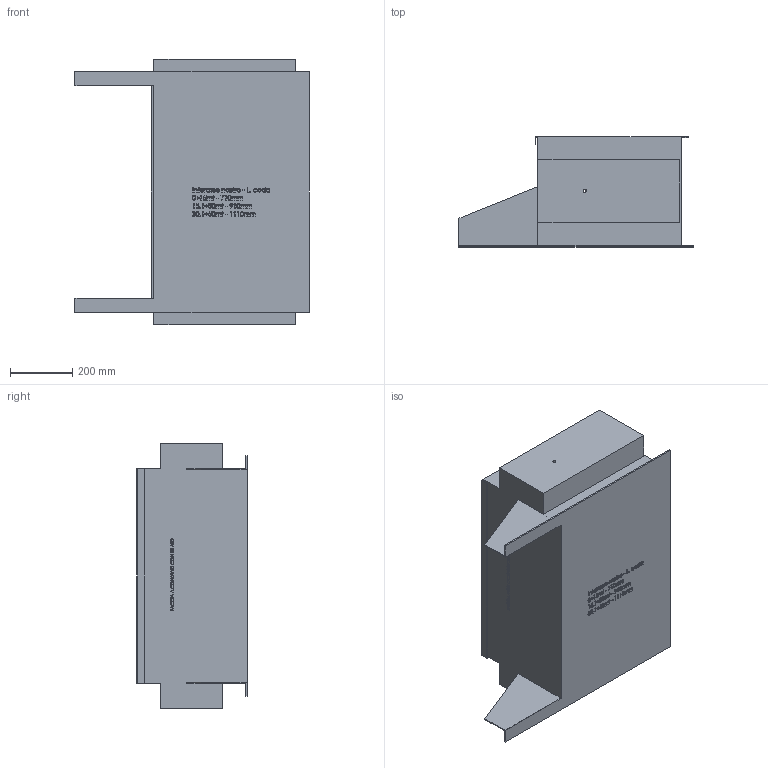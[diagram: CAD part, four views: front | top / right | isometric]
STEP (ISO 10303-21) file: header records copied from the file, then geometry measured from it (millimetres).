
FILE_DESCRIPTION (( 'STEP AP203' ), '1' );
FILE_NAME ('30042.step', '2019-03-14T14:30:59', ( 'PC' ), ( 'Hewlett-Packard Company' ), 'SwSTEP 2.0', 'SolidWorks 2016', '' );
FILE_SCHEMA (( 'CONFIG_CONTROL_DESIGN' ));
Products named in the file (1): 30042
Bounding box: 750 x 353.5 x 850 mm (x, y, z)
Volume: 127089522.2 mm3; surface area: 2085195.6 mm2
Topology: 1 solids, 1 shells, 1110 faces, 2964 edges, 1976 vertices
Faces by surface type: plane 679, bspline 429, cylinder 2
Entity records: 57931 total; most frequent: CARTESIAN_POINT 33072, ORIENTED_EDGE 5928, DIRECTION 3474, EDGE_CURVE 2964, VECTOR 2102, LINE 2102, VERTEX_POINT 1976, EDGE_LOOP 1232
